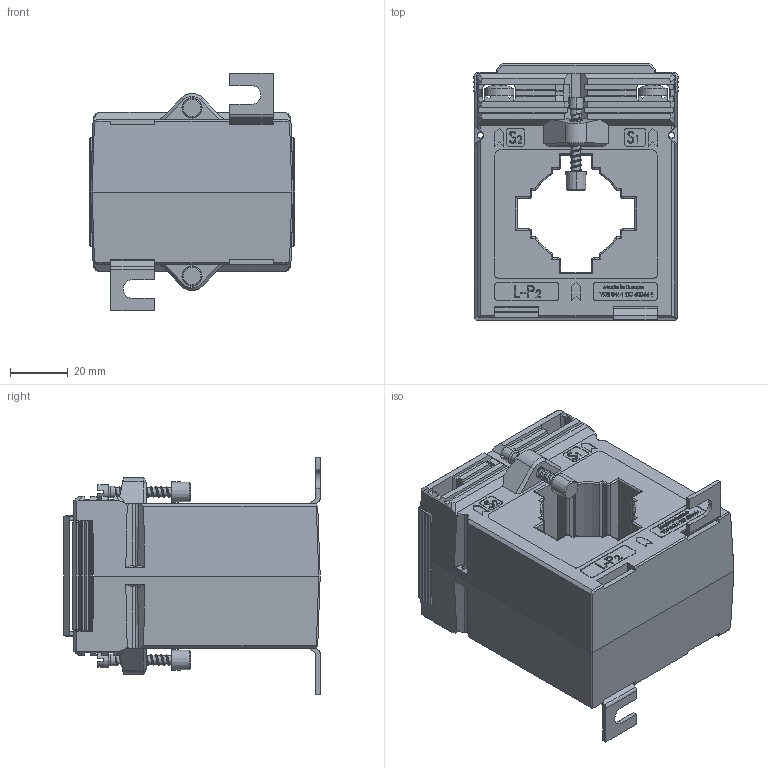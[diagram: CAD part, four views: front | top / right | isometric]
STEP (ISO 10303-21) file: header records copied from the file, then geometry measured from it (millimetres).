
FILE_DESCRIPTION (( 'STEP AP214' ), '1' );
FILE_NAME ('EASK41_5_kpl.STEP', '2012-01-17T09:40:58', ( ' ' ), ( '' ), 'SwSTEP 2.0', 'SolidWorks 2010', '' );
FILE_SCHEMA (( 'AUTOMOTIVE_DESIGN' ));
Length unit declared in the file: millimetre
Products named in the file (10): MBS_WN-003_04_Klemme_WN-003_02; Isolierschutzkappe; Linsenschraube DIN 7985 4.8 VZ M 5 x 10; Plombierplatte_F; ASK41_5_11; ASK41_5_11_Gehäuseoberteil; EASK41_5_kpl; Plastite_Schraube_30_mit-Gewinde; Verschlussklappe_38mm; Fusswinkel_1,5
Assembly tree (17 placements, depth 2):
  EASK41_5_kpl
    MBS_WN-003_04_Klemme_WN-003_02  x2
    Linsenschraube DIN 7985 4.8 VZ M 5 x 10  x4
    Verschlussklappe_38mm  x2
    Isolierschutzkappe  x2
    Plastite_Schraube_30_mit-Gewinde  x2
    Plombierplatte_F
    Fusswinkel_1,5  x2
    ASK41_5_11_Gehäuseoberteil
    ASK41_5_11
Bounding box: 71 x 88.5 x 82 mm (x, y, z)
Volume: 234057.2 mm3; surface area: 64197.2 mm2
Topology: 17 solids, 17 shells, 2050 faces, 5316 edges, 3426 vertices
Faces by surface type: plane 1354, bspline 320, cylinder 250, cone 78, torus 32, sphere 16
Entity records: 74298 total; most frequent: CARTESIAN_POINT 32401, ORIENTED_EDGE 9324, DIRECTION 7131, EDGE_CURVE 4662, LINE 3513, VECTOR 3513, VERTEX_POINT 3036, EDGE_LOOP 1926
